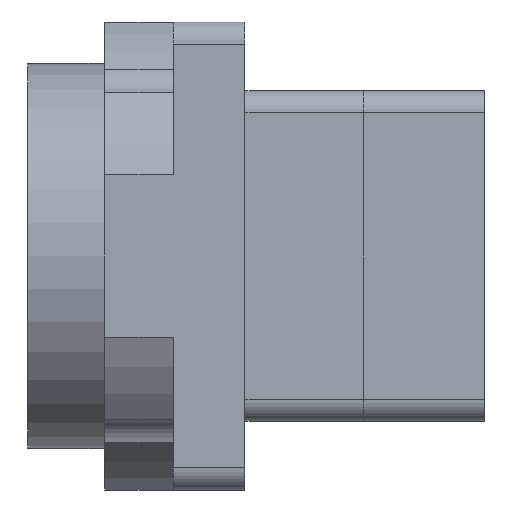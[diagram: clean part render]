
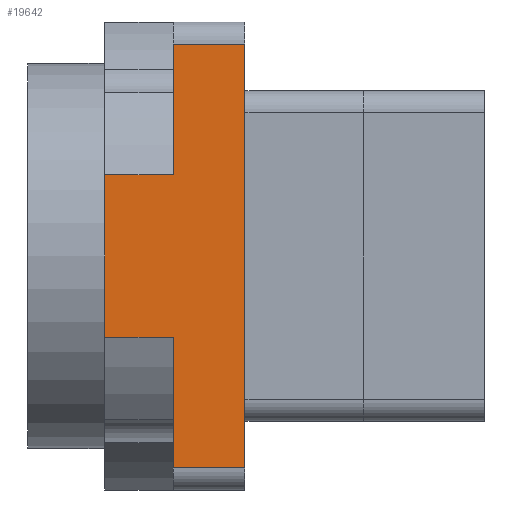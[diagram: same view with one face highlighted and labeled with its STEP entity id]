
A CAD part, left-side view. The second image highlights one B-rep face of the part: STEP entity #19642.
In plain terms, the highlighted planar face has unit normal (-1, 0, 0).
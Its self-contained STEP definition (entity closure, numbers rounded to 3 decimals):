
#2006 = PLANE('',#2007);
#2007 = AXIS2_PLACEMENT_3D('',#2008,#2009,#2010);
#2008 = CARTESIAN_POINT('',(22.343,-3.886,144.3));
#2009 = DIRECTION('',(0.,-1.,0.));
#2010 = DIRECTION('',(0.,-0.,-1.));
#3831 = VERTEX_POINT('',#3832);
#3832 = CARTESIAN_POINT('',(-66.657,-3.886,152.8));
#3847 = CYLINDRICAL_SURFACE('',#3848,4.);
#3848 = AXIS2_PLACEMENT_3D('',#3849,#3850,#3851);
#3849 = CARTESIAN_POINT('',(-62.657,9.114,152.8));
#3850 = DIRECTION('',(-0.,-1.,-0.));
#3851 = DIRECTION('',(0.,0.,-1.));
#3859 = EDGE_CURVE('',#3831,#3860,#3862,.T.);
#3860 = VERTEX_POINT('',#3861);
#3861 = CARTESIAN_POINT('',(-66.657,-3.886,75.8));
#3862 = SURFACE_CURVE('',#3863,(#3867,#3874),.PCURVE_S1.);
#3863 = LINE('',#3864,#3865);
#3864 = CARTESIAN_POINT('',(-66.657,-3.886,144.3));
#3865 = VECTOR('',#3866,1.);
#3866 = DIRECTION('',(0.,-0.,-1.));
#3867 = PCURVE('',#2006,#3868);
#3868 = DEFINITIONAL_REPRESENTATION('',(#3869),#3873);
#3869 = LINE('',#3870,#3871);
#3870 = CARTESIAN_POINT('',(-0.,-89.));
#3871 = VECTOR('',#3872,1.);
#3872 = DIRECTION('',(1.,0.));
#3873 = ( GEOMETRIC_REPRESENTATION_CONTEXT(2) 
PARAMETRIC_REPRESENTATION_CONTEXT() REPRESENTATION_CONTEXT('2D SPACE',''
  ) );
#3874 = PCURVE('',#3875,#3880);
#3875 = PLANE('',#3876);
#3876 = AXIS2_PLACEMENT_3D('',#3877,#3878,#3879);
#3877 = CARTESIAN_POINT('',(-66.657,9.114,75.8));
#3878 = DIRECTION('',(1.,0.,0.));
#3879 = DIRECTION('',(0.,0.,-1.));
#3880 = DEFINITIONAL_REPRESENTATION('',(#3881),#3885);
#3881 = LINE('',#3882,#3883);
#3882 = CARTESIAN_POINT('',(-68.5,-13.));
#3883 = VECTOR('',#3884,1.);
#3884 = DIRECTION('',(1.,-0.));
#3885 = ( GEOMETRIC_REPRESENTATION_CONTEXT(2) 
PARAMETRIC_REPRESENTATION_CONTEXT() REPRESENTATION_CONTEXT('2D SPACE',''
  ) );
#3902 = CYLINDRICAL_SURFACE('',#3903,4.);
#3903 = AXIS2_PLACEMENT_3D('',#3904,#3905,#3906);
#3904 = CARTESIAN_POINT('',(-62.657,9.114,75.8));
#3905 = DIRECTION('',(-0.,-1.,-0.));
#3906 = DIRECTION('',(0.,0.,-1.));
#18380 = PLANE('',#18381);
#18381 = AXIS2_PLACEMENT_3D('',#18382,#18383,#18384);
#18382 = CARTESIAN_POINT('',(-24.157,21.614,114.3));
#18383 = DIRECTION('',(0.,1.,0.));
#18384 = DIRECTION('',(0.,-0.,1.));
#18455 = PLANE('',#18456);
#18456 = AXIS2_PLACEMENT_3D('',#18457,#18458,#18459);
#18457 = CARTESIAN_POINT('',(22.343,9.114,148.3));
#18458 = DIRECTION('',(0.,-1.,0.));
#18459 = DIRECTION('',(0.,-0.,-1.));
#19035 = PLANE('',#19036);
#19036 = AXIS2_PLACEMENT_3D('',#19037,#19038,#19039);
#19037 = CARTESIAN_POINT('',(22.343,9.114,148.3));
#19038 = DIRECTION('',(0.,-1.,0.));
#19039 = DIRECTION('',(0.,-0.,-1.));
#19599 = VERTEX_POINT('',#19600);
#19600 = CARTESIAN_POINT('',(-66.657,9.114,152.8));
#19622 = EDGE_CURVE('',#19599,#3831,#19623,.T.);
#19623 = SURFACE_CURVE('',#19624,(#19628,#19635),.PCURVE_S1.);
#19624 = LINE('',#19625,#19626);
#19625 = CARTESIAN_POINT('',(-66.657,9.114,152.8));
#19626 = VECTOR('',#19627,1.);
#19627 = DIRECTION('',(-0.,-1.,-0.));
#19628 = PCURVE('',#3847,#19629);
#19629 = DEFINITIONAL_REPRESENTATION('',(#19630),#19634);
#19630 = LINE('',#19631,#19632);
#19631 = CARTESIAN_POINT('',(4.712,0.));
#19632 = VECTOR('',#19633,1.);
#19633 = DIRECTION('',(0.,1.));
#19634 = ( GEOMETRIC_REPRESENTATION_CONTEXT(2) 
PARAMETRIC_REPRESENTATION_CONTEXT() REPRESENTATION_CONTEXT('2D SPACE',''
  ) );
#19635 = PCURVE('',#3875,#19636);
#19636 = DEFINITIONAL_REPRESENTATION('',(#19637),#19641);
#19637 = LINE('',#19638,#19639);
#19638 = CARTESIAN_POINT('',(-77.,0.));
#19639 = VECTOR('',#19640,1.);
#19640 = DIRECTION('',(0.,-1.));
#19641 = ( GEOMETRIC_REPRESENTATION_CONTEXT(2) 
PARAMETRIC_REPRESENTATION_CONTEXT() REPRESENTATION_CONTEXT('2D SPACE',''
  ) );
#19642 = ADVANCED_FACE('',(#19643),#3875,.F.);
#19643 = FACE_BOUND('',#19644,.T.);
#19644 = EDGE_LOOP('',(#19645,#19670,#19698,#19721,#19742,#19743,#19744,
    #19767));
#19645 = ORIENTED_EDGE('',*,*,#19646,.F.);
#19646 = EDGE_CURVE('',#19647,#19649,#19651,.T.);
#19647 = VERTEX_POINT('',#19648);
#19648 = CARTESIAN_POINT('',(-66.657,21.614,
    99.51));
#19649 = VERTEX_POINT('',#19650);
#19650 = CARTESIAN_POINT('',(-66.657,21.614,
    129.09));
#19651 = SURFACE_CURVE('',#19652,(#19656,#19663),.PCURVE_S1.);
#19652 = LINE('',#19653,#19654);
#19653 = CARTESIAN_POINT('',(-66.657,21.614,75.8));
#19654 = VECTOR('',#19655,1.);
#19655 = DIRECTION('',(0.,-0.,1.));
#19656 = PCURVE('',#3875,#19657);
#19657 = DEFINITIONAL_REPRESENTATION('',(#19658),#19662);
#19658 = LINE('',#19659,#19660);
#19659 = CARTESIAN_POINT('',(0.,12.5));
#19660 = VECTOR('',#19661,1.);
#19661 = DIRECTION('',(-1.,0.));
#19662 = ( GEOMETRIC_REPRESENTATION_CONTEXT(2) 
PARAMETRIC_REPRESENTATION_CONTEXT() REPRESENTATION_CONTEXT('2D SPACE',''
  ) );
#19663 = PCURVE('',#18380,#19664);
#19664 = DEFINITIONAL_REPRESENTATION('',(#19665),#19669);
#19665 = LINE('',#19666,#19667);
#19666 = CARTESIAN_POINT('',(-38.5,-42.5));
#19667 = VECTOR('',#19668,1.);
#19668 = DIRECTION('',(1.,0.));
#19669 = ( GEOMETRIC_REPRESENTATION_CONTEXT(2) 
PARAMETRIC_REPRESENTATION_CONTEXT() REPRESENTATION_CONTEXT('2D SPACE',''
  ) );
#19670 = ORIENTED_EDGE('',*,*,#19671,.F.);
#19671 = EDGE_CURVE('',#19672,#19647,#19674,.T.);
#19672 = VERTEX_POINT('',#19673);
#19673 = CARTESIAN_POINT('',(-66.657,9.114,
    99.51));
#19674 = SURFACE_CURVE('',#19675,(#19679,#19686),.PCURVE_S1.);
#19675 = LINE('',#19676,#19677);
#19676 = CARTESIAN_POINT('',(-66.657,9.114,
    99.51));
#19677 = VECTOR('',#19678,1.);
#19678 = DIRECTION('',(0.,1.,0.));
#19679 = PCURVE('',#3875,#19680);
#19680 = DEFINITIONAL_REPRESENTATION('',(#19681),#19685);
#19681 = LINE('',#19682,#19683);
#19682 = CARTESIAN_POINT('',(-23.71,0.));
#19683 = VECTOR('',#19684,1.);
#19684 = DIRECTION('',(0.,1.));
#19685 = ( GEOMETRIC_REPRESENTATION_CONTEXT(2) 
PARAMETRIC_REPRESENTATION_CONTEXT() REPRESENTATION_CONTEXT('2D SPACE',''
  ) );
#19686 = PCURVE('',#19687,#19692);
#19687 = CYLINDRICAL_SURFACE('',#19688,45.);
#19688 = AXIS2_PLACEMENT_3D('',#19689,#19690,#19691);
#19689 = CARTESIAN_POINT('',(-24.157,21.614,114.3));
#19690 = DIRECTION('',(-0.,-1.,-0.));
#19691 = DIRECTION('',(0.,0.,-1.));
#19692 = DEFINITIONAL_REPRESENTATION('',(#19693),#19697);
#19693 = LINE('',#19694,#19695);
#19694 = CARTESIAN_POINT('',(5.047,12.5));
#19695 = VECTOR('',#19696,1.);
#19696 = DIRECTION('',(0.,-1.));
#19697 = ( GEOMETRIC_REPRESENTATION_CONTEXT(2) 
PARAMETRIC_REPRESENTATION_CONTEXT() REPRESENTATION_CONTEXT('2D SPACE',''
  ) );
#19698 = ORIENTED_EDGE('',*,*,#19699,.F.);
#19699 = EDGE_CURVE('',#19700,#19672,#19702,.T.);
#19700 = VERTEX_POINT('',#19701);
#19701 = CARTESIAN_POINT('',(-66.657,9.114,75.8));
#19702 = SURFACE_CURVE('',#19703,(#19707,#19714),.PCURVE_S1.);
#19703 = LINE('',#19704,#19705);
#19704 = CARTESIAN_POINT('',(-66.657,9.114,75.8));
#19705 = VECTOR('',#19706,1.);
#19706 = DIRECTION('',(0.,-0.,1.));
#19707 = PCURVE('',#3875,#19708);
#19708 = DEFINITIONAL_REPRESENTATION('',(#19709),#19713);
#19709 = LINE('',#19710,#19711);
#19710 = CARTESIAN_POINT('',(0.,0.));
#19711 = VECTOR('',#19712,1.);
#19712 = DIRECTION('',(-1.,0.));
#19713 = ( GEOMETRIC_REPRESENTATION_CONTEXT(2) 
PARAMETRIC_REPRESENTATION_CONTEXT() REPRESENTATION_CONTEXT('2D SPACE',''
  ) );
#19714 = PCURVE('',#18455,#19715);
#19715 = DEFINITIONAL_REPRESENTATION('',(#19716),#19720);
#19716 = LINE('',#19717,#19718);
#19717 = CARTESIAN_POINT('',(72.5,-89.));
#19718 = VECTOR('',#19719,1.);
#19719 = DIRECTION('',(-1.,0.));
#19720 = ( GEOMETRIC_REPRESENTATION_CONTEXT(2) 
PARAMETRIC_REPRESENTATION_CONTEXT() REPRESENTATION_CONTEXT('2D SPACE',''
  ) );
#19721 = ORIENTED_EDGE('',*,*,#19722,.F.);
#19722 = EDGE_CURVE('',#3860,#19700,#19723,.T.);
#19723 = SURFACE_CURVE('',#19724,(#19728,#19735),.PCURVE_S1.);
#19724 = LINE('',#19725,#19726);
#19725 = CARTESIAN_POINT('',(-66.657,9.114,75.8));
#19726 = VECTOR('',#19727,1.);
#19727 = DIRECTION('',(0.,1.,0.));
#19728 = PCURVE('',#3875,#19729);
#19729 = DEFINITIONAL_REPRESENTATION('',(#19730),#19734);
#19730 = LINE('',#19731,#19732);
#19731 = CARTESIAN_POINT('',(0.,0.));
#19732 = VECTOR('',#19733,1.);
#19733 = DIRECTION('',(0.,1.));
#19734 = ( GEOMETRIC_REPRESENTATION_CONTEXT(2) 
PARAMETRIC_REPRESENTATION_CONTEXT() REPRESENTATION_CONTEXT('2D SPACE',''
  ) );
#19735 = PCURVE('',#3902,#19736);
#19736 = DEFINITIONAL_REPRESENTATION('',(#19737),#19741);
#19737 = LINE('',#19738,#19739);
#19738 = CARTESIAN_POINT('',(4.712,0.));
#19739 = VECTOR('',#19740,1.);
#19740 = DIRECTION('',(0.,-1.));
#19741 = ( GEOMETRIC_REPRESENTATION_CONTEXT(2) 
PARAMETRIC_REPRESENTATION_CONTEXT() REPRESENTATION_CONTEXT('2D SPACE',''
  ) );
#19742 = ORIENTED_EDGE('',*,*,#3859,.F.);
#19743 = ORIENTED_EDGE('',*,*,#19622,.F.);
#19744 = ORIENTED_EDGE('',*,*,#19745,.F.);
#19745 = EDGE_CURVE('',#19746,#19599,#19748,.T.);
#19746 = VERTEX_POINT('',#19747);
#19747 = CARTESIAN_POINT('',(-66.657,9.114,
    129.09));
#19748 = SURFACE_CURVE('',#19749,(#19753,#19760),.PCURVE_S1.);
#19749 = LINE('',#19750,#19751);
#19750 = CARTESIAN_POINT('',(-66.657,9.114,75.8));
#19751 = VECTOR('',#19752,1.);
#19752 = DIRECTION('',(0.,-0.,1.));
#19753 = PCURVE('',#3875,#19754);
#19754 = DEFINITIONAL_REPRESENTATION('',(#19755),#19759);
#19755 = LINE('',#19756,#19757);
#19756 = CARTESIAN_POINT('',(0.,0.));
#19757 = VECTOR('',#19758,1.);
#19758 = DIRECTION('',(-1.,0.));
#19759 = ( GEOMETRIC_REPRESENTATION_CONTEXT(2) 
PARAMETRIC_REPRESENTATION_CONTEXT() REPRESENTATION_CONTEXT('2D SPACE',''
  ) );
#19760 = PCURVE('',#19035,#19761);
#19761 = DEFINITIONAL_REPRESENTATION('',(#19762),#19766);
#19762 = LINE('',#19763,#19764);
#19763 = CARTESIAN_POINT('',(72.5,-89.));
#19764 = VECTOR('',#19765,1.);
#19765 = DIRECTION('',(-1.,0.));
#19766 = ( GEOMETRIC_REPRESENTATION_CONTEXT(2) 
PARAMETRIC_REPRESENTATION_CONTEXT() REPRESENTATION_CONTEXT('2D SPACE',''
  ) );
#19767 = ORIENTED_EDGE('',*,*,#19768,.F.);
#19768 = EDGE_CURVE('',#19649,#19746,#19769,.T.);
#19769 = SURFACE_CURVE('',#19770,(#19774,#19781),.PCURVE_S1.);
#19770 = LINE('',#19771,#19772);
#19771 = CARTESIAN_POINT('',(-66.657,9.114,
    129.09));
#19772 = VECTOR('',#19773,1.);
#19773 = DIRECTION('',(-0.,-1.,-0.));
#19774 = PCURVE('',#3875,#19775);
#19775 = DEFINITIONAL_REPRESENTATION('',(#19776),#19780);
#19776 = LINE('',#19777,#19778);
#19777 = CARTESIAN_POINT('',(-53.29,0.));
#19778 = VECTOR('',#19779,1.);
#19779 = DIRECTION('',(0.,-1.));
#19780 = ( GEOMETRIC_REPRESENTATION_CONTEXT(2) 
PARAMETRIC_REPRESENTATION_CONTEXT() REPRESENTATION_CONTEXT('2D SPACE',''
  ) );
#19781 = PCURVE('',#19782,#19787);
#19782 = CYLINDRICAL_SURFACE('',#19783,45.);
#19783 = AXIS2_PLACEMENT_3D('',#19784,#19785,#19786);
#19784 = CARTESIAN_POINT('',(-24.157,21.614,114.3));
#19785 = DIRECTION('',(-0.,-1.,-0.));
#19786 = DIRECTION('',(0.,0.,-1.));
#19787 = DEFINITIONAL_REPRESENTATION('',(#19788),#19792);
#19788 = LINE('',#19789,#19790);
#19789 = CARTESIAN_POINT('',(4.377,12.5));
#19790 = VECTOR('',#19791,1.);
#19791 = DIRECTION('',(0.,1.));
#19792 = ( GEOMETRIC_REPRESENTATION_CONTEXT(2) 
PARAMETRIC_REPRESENTATION_CONTEXT() REPRESENTATION_CONTEXT('2D SPACE',''
  ) );
